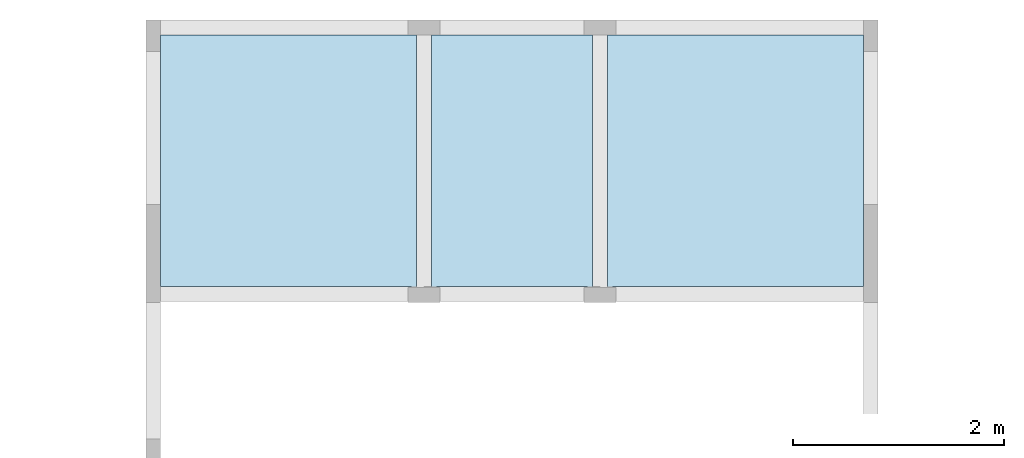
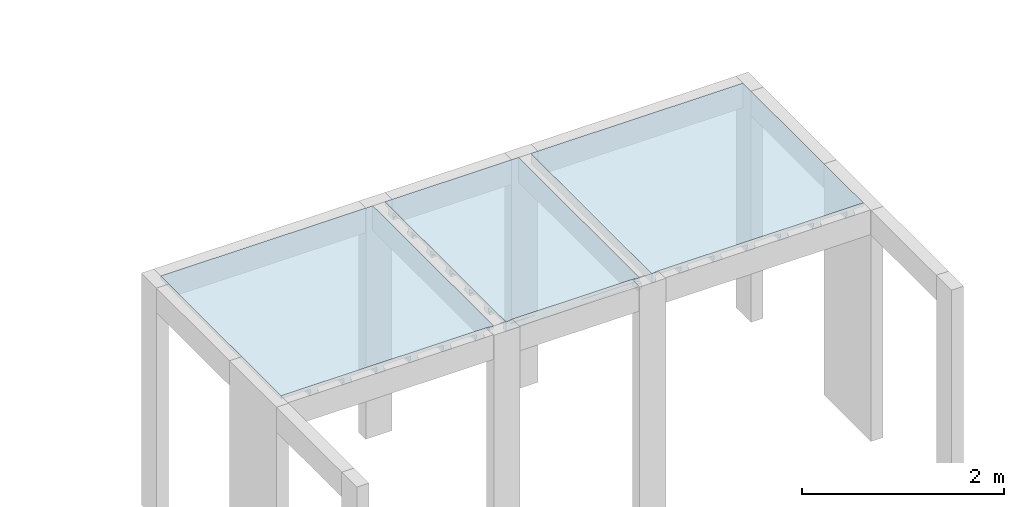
# One storey, part 2 of 2: 3 slabs.
"""IFC4 building model written with IfcOpenShell, lengths in centimetres."""

from ifc_helpers import new_model, si_unit, derived_unit, frame, origin_with_axes, place, context, project, spatial, polyline, outline, extrude, faceted_brep, material, element, save


model = new_model("IFC4")

# Units and contexts
model_context = context("Model", 3, precision=1e-05, world=origin_with_axes(), identifier="Body")
ifc_project = project(units=[si_unit("LENGTHUNIT", "METRE", prefix="CENTI"), si_unit("VOLUMEUNIT", "CUBIC_METRE"), si_unit("AREAUNIT", "SQUARE_METRE"), si_unit("POWERUNIT", "WATT"), si_unit("LUMINOUSFLUXUNIT", "LUMEN"), si_unit("ELECTRICCURRENTUNIT", "AMPERE"), si_unit("PRESSUREUNIT", "PASCAL", prefix="KILO"), si_unit("MASSUNIT", "GRAM", prefix="KILO"), si_unit("PLANEANGLEUNIT", "RADIAN"), derived_unit("VOLUMETRICFLOWRATEUNIT", [(si_unit("LENGTHUNIT", "METRE"), 3), (si_unit("TIMEUNIT", "SECOND"), -1)])], contexts=[model_context])

# Site, building, storey
site_placement = place(None, origin_with_axes())
site = spatial("IfcSite", under=ifc_project, at=site_placement)
building_placement = place(site_placement, frame((0.0, 0.0, -170.0)))
building = spatial("IfcBuilding", under=site, at=building_placement)
placement_1 = place(building_placement, origin_with_axes())
placement_2 = place(placement_1, frame((0.0, 0.0, 170.0), z_axis=(0.0, 0.0, 1.0), x_axis=(1.0, 0.0, 0.0)))
storey_placement = place(placement_2, frame((0.0, 0.0, 280.0), z_axis=(0.0, 0.0, 1.0), x_axis=(1.0, 0.0, 0.0)))
storey = spatial("IfcBuildingStorey", under=building, at=storey_placement, Name="Respalto", CompositionType="ELEMENT", Elevation=280.0)

# Slabs
ifc_material = material(Name="Concreto")
slab_1_placement = place(storey_placement, frame((2202.06, 258.0, 0.0), z_axis=(0.0, 0.0, 1.0), x_axis=(1.0, 0.0, 0.0)))
element("IfcSlab", 1, at=slab_1_placement, inside=storey, material=ifc_material, Name="L1", PredefinedType="FLOOR", context=model_context, shape_type="SolidModel", body=[
    extrude(outline(polyline([(121.5, 120.0), (-121.499, 120.0), (-121.5, -119.0), (116.499, -119.0), (116.499, -120.0), (121.499, -120.0), (121.5, 120.0), (121.5, 120.0)])), frame((0.0, 0.0, -4.0), z_axis=(0.0, 0.0, 1.0), x_axis=(1.0, 0.0, 0.0)), (0.0, 0.0, 1.0), 4.0),
    faceted_brep([(-87.5, -119.0, -12.0), (-87.5, 120.0, -12.0), (-79.5, 120.0, -12.0), (-79.5, -119.0, -12.0), (-79.5, -119.0, -4.0), (-79.5, 120.0, -4.0), (-87.5, 120.0, -4.0), (-87.5, -119.0, -4.0)], [[[0, 1, 2, 3]], [[4, 5, 6, 7]], [[4, 3, 5]], [[3, 2, 5]], [[5, 2, 6]], [[2, 1, 6]], [[6, 1, 7]], [[1, 0, 7]], [[7, 0, 4]], [[0, 3, 4]]]),
    faceted_brep([(-89.0, -119.0, -12.0), (-89.0, 120.0, -12.0), (-87.5, 120.0, -12.0), (-87.5, -119.0, -12.0), (-87.5, -119.0, -9.0), (-87.5, 120.0, -9.0), (-89.0, 120.0, -9.0), (-89.0, -119.0, -9.0)], [[[0, 1, 2, 3]], [[4, 5, 6, 7]], [[4, 3, 5]], [[3, 2, 5]], [[5, 2, 6]], [[2, 1, 6]], [[6, 1, 7]], [[1, 0, 7]], [[7, 0, 4]], [[0, 3, 4]]]),
    faceted_brep([(-79.5, -119.0, -12.0), (-79.5, 120.0, -12.0), (-78.0, 120.0, -12.0), (-78.0, -119.0, -12.0), (-78.0, -119.0, -9.0), (-78.0, 120.0, -9.0), (-79.5, 120.0, -9.0), (-79.5, -119.0, -9.0)], [[[0, 1, 2, 3]], [[4, 5, 6, 7]], [[4, 3, 5]], [[3, 2, 5]], [[5, 2, 6]], [[2, 1, 6]], [[6, 1, 7]], [[1, 0, 7]], [[7, 0, 4]], [[0, 3, 4]]]),
    faceted_brep([(-49.5, -119.0, -12.0), (-49.5, 120.0, -12.0), (-41.5, 120.0, -12.0), (-41.5, -119.0, -12.0), (-41.5, -119.0, -4.0), (-41.5, 120.0, -4.0), (-49.5, 120.0, -4.0), (-49.5, -119.0, -4.0)], [[[0, 1, 2, 3]], [[4, 5, 6, 7]], [[4, 3, 5]], [[3, 2, 5]], [[5, 2, 6]], [[2, 1, 6]], [[6, 1, 7]], [[1, 0, 7]], [[7, 0, 4]], [[0, 3, 4]]]),
    faceted_brep([(-51.0, -119.0, -12.0), (-51.0, 120.0, -12.0), (-49.5, 120.0, -12.0), (-49.5, -119.0, -12.0), (-49.5, -119.0, -9.0), (-49.5, 120.0, -9.0), (-51.0, 120.0, -9.0), (-51.0, -119.0, -9.0)], [[[0, 1, 2, 3]], [[4, 5, 6, 7]], [[4, 3, 5]], [[3, 2, 5]], [[5, 2, 6]], [[2, 1, 6]], [[6, 1, 7]], [[1, 0, 7]], [[7, 0, 4]], [[0, 3, 4]]]),
    faceted_brep([(-41.5, -119.0, -12.0), (-41.5, 120.0, -12.0), (-40.0, 120.0, -12.0), (-40.0, -119.0, -12.0), (-40.0, -119.0, -9.0), (-40.0, 120.0, -9.0), (-41.5, 120.0, -9.0), (-41.5, -119.0, -9.0)], [[[0, 1, 2, 3]], [[4, 5, 6, 7]], [[4, 3, 5]], [[3, 2, 5]], [[5, 2, 6]], [[2, 1, 6]], [[6, 1, 7]], [[1, 0, 7]], [[7, 0, 4]], [[0, 3, 4]]]),
    faceted_brep([(-11.5, -119.0, -12.0), (-11.5, 120.0, -12.0), (-3.5, 120.0, -12.0), (-3.5, -119.0, -12.0), (-3.5, -119.0, -4.0), (-3.5, 120.0, -4.0), (-11.5, 120.0, -4.0), (-11.5, -119.0, -4.0)], [[[0, 1, 2, 3]], [[4, 5, 6, 7]], [[4, 3, 5]], [[3, 2, 5]], [[5, 2, 6]], [[2, 1, 6]], [[6, 1, 7]], [[1, 0, 7]], [[7, 0, 4]], [[0, 3, 4]]]),
    faceted_brep([(-13.0, -119.0, -12.0), (-13.0, 120.0, -12.0), (-11.5, 120.0, -12.0), (-11.5, -119.0, -12.0), (-11.5, -119.0, -9.0), (-11.5, 120.0, -9.0), (-13.0, 120.0, -9.0), (-13.0, -119.0, -9.0)], [[[0, 1, 2, 3]], [[4, 5, 6, 7]], [[4, 3, 5]], [[3, 2, 5]], [[5, 2, 6]], [[2, 1, 6]], [[6, 1, 7]], [[1, 0, 7]], [[7, 0, 4]], [[0, 3, 4]]]),
    faceted_brep([(-3.5, -119.0, -12.0), (-3.5, 120.0, -12.0), (-2.0, 120.0, -12.0), (-2.0, -119.0, -12.0), (-2.0, -119.0, -9.0), (-2.0, 120.0, -9.0), (-3.5, 120.0, -9.0), (-3.5, -119.0, -9.0)], [[[0, 1, 2, 3]], [[4, 5, 6, 7]], [[4, 3, 5]], [[3, 2, 5]], [[5, 2, 6]], [[2, 1, 6]], [[6, 1, 7]], [[1, 0, 7]], [[7, 0, 4]], [[0, 3, 4]]]),
    faceted_brep([(26.5, -119.0, -12.0), (26.5, 120.0, -12.0), (34.5, 120.0, -12.0), (34.5, -119.0, -12.0), (34.5, -119.0, -4.0), (34.5, 120.0, -4.0), (26.5, 120.0, -4.0), (26.5, -119.0, -4.0)], [[[0, 1, 2, 3]], [[4, 5, 6, 7]], [[4, 3, 5]], [[3, 2, 5]], [[5, 2, 6]], [[2, 1, 6]], [[6, 1, 7]], [[1, 0, 7]], [[7, 0, 4]], [[0, 3, 4]]]),
    faceted_brep([(25.0, -119.0, -12.0), (25.0, 120.0, -12.0), (26.5, 120.0, -12.0), (26.5, -119.0, -12.0), (26.5, -119.0, -9.0), (26.5, 120.0, -9.0), (25.0, 120.0, -9.0), (25.0, -119.0, -9.0)], [[[0, 1, 2, 3]], [[4, 5, 6, 7]], [[4, 3, 5]], [[3, 2, 5]], [[5, 2, 6]], [[2, 1, 6]], [[6, 1, 7]], [[1, 0, 7]], [[7, 0, 4]], [[0, 3, 4]]]),
    faceted_brep([(34.5, -119.0, -12.0), (34.5, 120.0, -12.0), (36.0, 120.0, -12.0), (36.0, -119.0, -12.0), (36.0, -119.0, -9.0), (36.0, 120.0, -9.0), (34.5, 120.0, -9.0), (34.5, -119.0, -9.0)], [[[0, 1, 2, 3]], [[4, 5, 6, 7]], [[4, 3, 5]], [[3, 2, 5]], [[5, 2, 6]], [[2, 1, 6]], [[6, 1, 7]], [[1, 0, 7]], [[7, 0, 4]], [[0, 3, 4]]]),
    faceted_brep([(64.5, -119.0, -12.0), (64.5, 120.0, -12.0), (72.5, 120.0, -12.0), (72.5, -119.0, -12.0), (72.5, -119.0, -4.0), (72.5, 120.0, -4.0), (64.5, 120.0, -4.0), (64.5, -119.0, -4.0)], [[[0, 1, 2, 3]], [[4, 5, 6, 7]], [[4, 3, 5]], [[3, 2, 5]], [[5, 2, 6]], [[2, 1, 6]], [[6, 1, 7]], [[1, 0, 7]], [[7, 0, 4]], [[0, 3, 4]]]),
    faceted_brep([(63.0, -119.0, -12.0), (63.0, 120.0, -12.0), (64.5, 120.0, -12.0), (64.5, -119.0, -12.0), (64.5, -119.0, -9.0), (64.5, 120.0, -9.0), (63.0, 120.0, -9.0), (63.0, -119.0, -9.0)], [[[0, 1, 2, 3]], [[4, 5, 6, 7]], [[4, 3, 5]], [[3, 2, 5]], [[5, 2, 6]], [[2, 1, 6]], [[6, 1, 7]], [[1, 0, 7]], [[7, 0, 4]], [[0, 3, 4]]]),
    faceted_brep([(72.5, -119.0, -12.0), (72.5, 120.0, -12.0), (74.0, 120.0, -12.0), (74.0, -119.0, -12.0), (74.0, -119.0, -9.0), (74.0, 120.0, -9.0), (72.5, 120.0, -9.0), (72.5, -119.0, -9.0)], [[[0, 1, 2, 3]], [[4, 5, 6, 7]], [[4, 3, 5]], [[3, 2, 5]], [[5, 2, 6]], [[2, 1, 6]], [[6, 1, 7]], [[1, 0, 7]], [[7, 0, 4]], [[0, 3, 4]]]),
    faceted_brep([(102.5, -119.0, -12.0), (102.5, 120.0, -12.0), (110.5, 120.0, -12.0), (110.5, -119.0, -12.0), (110.5, -119.0, -4.0), (110.5, 120.0, -4.0), (102.5, 120.0, -4.0), (102.5, -119.0, -4.0)], [[[0, 1, 2, 3]], [[4, 5, 6, 7]], [[4, 3, 5]], [[3, 2, 5]], [[5, 2, 6]], [[2, 1, 6]], [[6, 1, 7]], [[1, 0, 7]], [[7, 0, 4]], [[0, 3, 4]]]),
    faceted_brep([(101.0, -119.0, -12.0), (101.0, 120.0, -12.0), (102.5, 120.0, -12.0), (102.5, -119.0, -12.0), (102.5, -119.0, -9.0), (102.5, 120.0, -9.0), (101.0, 120.0, -9.0), (101.0, -119.0, -9.0)], [[[0, 1, 2, 3]], [[4, 5, 6, 7]], [[4, 3, 5]], [[3, 2, 5]], [[5, 2, 6]], [[2, 1, 6]], [[6, 1, 7]], [[1, 0, 7]], [[7, 0, 4]], [[0, 3, 4]]]),
    faceted_brep([(110.5, -119.0, -12.0), (110.5, 120.0, -12.0), (112.0, 120.0, -12.0), (112.0, -119.0, -12.0), (112.0, -119.0, -9.0), (112.0, 120.0, -9.0), (110.5, 120.0, -9.0), (110.5, -119.0, -9.0)], [[[0, 1, 2, 3]], [[4, 5, 6, 7]], [[4, 3, 5]], [[3, 2, 5]], [[5, 2, 6]], [[2, 1, 6]], [[6, 1, 7]], [[1, 0, 7]], [[7, 0, 4]], [[0, 3, 4]]]),
])
slab_2_placement = place(storey_placement, frame((2414.06, 256.25, 0.0), z_axis=(0.0, 0.0, 1.0), x_axis=(1.0, 0.0, 0.0)))
element("IfcSlab", 2, at=slab_2_placement, inside=storey, material=ifc_material, Name="L2", PredefinedType="FLOOR", context=model_context, shape_type="SolidModel", body=[
    extrude(outline(polyline([(-71.5, -119.0), (71.499, -119.0), (71.499, -120.0), (76.499, -120.0), (76.5, 120.0), (-76.5, 120.0), (-76.5, -120.0), (-71.5, -120.0), (-71.5, -119.0), (-71.5, -119.0)])), frame((0.0, 1.75, -4.0), z_axis=(0.0, 0.0, 1.0), x_axis=(1.0, 0.0, 0.0)), (0.0, 0.0, 1.0), 4.0),
    faceted_brep([(-76.5, -113.75, -12.0), (76.4995, -113.75, -12.0), (-71.5, -118.25, -12.0), (-76.5, -118.25, -12.0), (-76.5, -118.25, -4.0), (-71.5, -118.25, -4.0), (76.4995, -113.75, -4.0), (-76.5, -113.75, -4.0)], [[[0, 1, 2, 3]], [[4, 5, 6, 7]], [[4, 3, 5]], [[3, 2, 5]], [[5, 2, 6]], [[2, 1, 6]], [[6, 1, 7]], [[1, 0, 7]], [[7, 0, 4]], [[0, 3, 4]]]),
    faceted_brep([(-76.5, -112.25, -12.0), (76.4995, -112.25, -12.0), (76.4995, -113.75, -12.0), (-76.5, -113.75, -12.0), (-76.5, -113.75, -9.0), (76.4995, -113.75, -9.0), (76.4995, -112.25, -9.0), (-76.5, -112.25, -9.0)], [[[0, 1, 2, 3]], [[4, 5, 6, 7]], [[4, 3, 5]], [[3, 2, 5]], [[5, 2, 6]], [[2, 1, 6]], [[6, 1, 7]], [[1, 0, 7]], [[7, 0, 4]], [[0, 3, 4]]]),
    faceted_brep([(71.499, -113.75, -12.0), (76.4995, -113.75, -12.0), (76.4995, -121.75, -12.0), (71.499, -121.75, -12.0), (71.499, -121.75, -4.0), (76.4995, -121.75, -4.0), (76.4995, -113.75, -4.0), (71.499, -113.75, -4.0)], [[[0, 1, 2, 3]], [[4, 5, 6, 7]], [[4, 3, 5]], [[3, 2, 5]], [[5, 2, 6]], [[2, 1, 6]], [[6, 1, 7]], [[1, 0, 7]], [[7, 0, 4]], [[0, 3, 4]]]),
    faceted_brep([(76.4995, -113.75, -12.0), (-76.5, -113.75, -12.0), (-76.5, -112.25, -12.0), (76.4995, -112.25, -12.0), (76.4995, -112.25, -9.0), (-76.5, -112.25, -9.0), (-76.5, -113.75, -9.0), (76.4995, -113.75, -9.0)], [[[0, 1, 2, 3]], [[4, 5, 6, 7]], [[4, 3, 5]], [[3, 2, 5]], [[5, 2, 6]], [[2, 1, 6]], [[6, 1, 7]], [[1, 0, 7]], [[7, 0, 4]], [[0, 3, 4]]]),
    faceted_brep([(-76.5, -75.75, -12.0), (76.4995, -75.75, -12.0), (76.4995, -83.75, -12.0), (-76.5, -83.75, -12.0), (-76.5, -83.75, -4.0), (76.4995, -83.75, -4.0), (76.4995, -75.75, -4.0), (-76.5, -75.75, -4.0)], [[[0, 1, 2, 3]], [[4, 5, 6, 7]], [[4, 3, 5]], [[3, 2, 5]], [[5, 2, 6]], [[2, 1, 6]], [[6, 1, 7]], [[1, 0, 7]], [[7, 0, 4]], [[0, 3, 4]]]),
    faceted_brep([(-76.5, -74.25, -12.0), (76.4995, -74.25, -12.0), (76.4995, -75.75, -12.0), (-76.5, -75.75, -12.0), (-76.5, -75.75, -9.0), (76.4995, -75.75, -9.0), (76.4995, -74.25, -9.0), (-76.5, -74.25, -9.0)], [[[0, 1, 2, 3]], [[4, 5, 6, 7]], [[4, 3, 5]], [[3, 2, 5]], [[5, 2, 6]], [[2, 1, 6]], [[6, 1, 7]], [[1, 0, 7]], [[7, 0, 4]], [[0, 3, 4]]]),
    faceted_brep([(-76.5, -83.75, -12.0), (76.4995, -83.75, -12.0), (76.4995, -85.25, -12.0), (-76.5, -85.25, -12.0), (-76.5, -85.25, -9.0), (76.4995, -85.25, -9.0), (76.4995, -83.75, -9.0), (-76.5, -83.75, -9.0)], [[[0, 1, 2, 3]], [[4, 5, 6, 7]], [[4, 3, 5]], [[3, 2, 5]], [[5, 2, 6]], [[2, 1, 6]], [[6, 1, 7]], [[1, 0, 7]], [[7, 0, 4]], [[0, 3, 4]]]),
    faceted_brep([(-76.5, -37.75, -12.0), (76.4995, -37.75, -12.0), (76.4995, -45.75, -12.0), (-76.5, -45.75, -12.0), (-76.5, -45.75, -4.0), (76.4995, -45.75, -4.0), (76.4995, -37.75, -4.0), (-76.5, -37.75, -4.0)], [[[0, 1, 2, 3]], [[4, 5, 6, 7]], [[4, 3, 5]], [[3, 2, 5]], [[5, 2, 6]], [[2, 1, 6]], [[6, 1, 7]], [[1, 0, 7]], [[7, 0, 4]], [[0, 3, 4]]]),
    faceted_brep([(-76.5, -36.25, -12.0), (76.4995, -36.25, -12.0), (76.4995, -37.75, -12.0), (-76.5, -37.75, -12.0), (-76.5, -37.75, -9.0), (76.4995, -37.75, -9.0), (76.4995, -36.25, -9.0), (-76.5, -36.25, -9.0)], [[[0, 1, 2, 3]], [[4, 5, 6, 7]], [[4, 3, 5]], [[3, 2, 5]], [[5, 2, 6]], [[2, 1, 6]], [[6, 1, 7]], [[1, 0, 7]], [[7, 0, 4]], [[0, 3, 4]]]),
    faceted_brep([(-76.5, -45.75, -12.0), (76.4995, -45.75, -12.0), (76.4995, -47.25, -12.0), (-76.5, -47.25, -12.0), (-76.5, -47.25, -9.0), (76.4995, -47.25, -9.0), (76.4995, -45.75, -9.0), (-76.5, -45.75, -9.0)], [[[0, 1, 2, 3]], [[4, 5, 6, 7]], [[4, 3, 5]], [[3, 2, 5]], [[5, 2, 6]], [[2, 1, 6]], [[6, 1, 7]], [[1, 0, 7]], [[7, 0, 4]], [[0, 3, 4]]]),
    faceted_brep([(-76.5, 0.25, -12.0), (76.4995, 0.25, -12.0), (76.4995, -7.75, -12.0), (-76.5, -7.75, -12.0), (-76.5, -7.75, -4.0), (76.4995, -7.75, -4.0), (76.4995, 0.25, -4.0), (-76.5, 0.25, -4.0)], [[[0, 1, 2, 3]], [[4, 5, 6, 7]], [[4, 3, 5]], [[3, 2, 5]], [[5, 2, 6]], [[2, 1, 6]], [[6, 1, 7]], [[1, 0, 7]], [[7, 0, 4]], [[0, 3, 4]]]),
    faceted_brep([(-76.5, 1.75, -12.0), (76.4995, 1.75, -12.0), (76.4995, 0.25, -12.0), (-76.5, 0.25, -12.0), (-76.5, 0.25, -9.0), (76.4995, 0.25, -9.0), (76.4995, 1.75, -9.0), (-76.5, 1.75, -9.0)], [[[0, 1, 2, 3]], [[4, 5, 6, 7]], [[4, 3, 5]], [[3, 2, 5]], [[5, 2, 6]], [[2, 1, 6]], [[6, 1, 7]], [[1, 0, 7]], [[7, 0, 4]], [[0, 3, 4]]]),
    faceted_brep([(-76.5, -7.75, -12.0), (76.4995, -7.75, -12.0), (76.4995, -9.25, -12.0), (-76.5, -9.25, -12.0), (-76.5, -9.25, -9.0), (76.4995, -9.25, -9.0), (76.4995, -7.75, -9.0), (-76.5, -7.75, -9.0)], [[[0, 1, 2, 3]], [[4, 5, 6, 7]], [[4, 3, 5]], [[3, 2, 5]], [[5, 2, 6]], [[2, 1, 6]], [[6, 1, 7]], [[1, 0, 7]], [[7, 0, 4]], [[0, 3, 4]]]),
    faceted_brep([(-76.5, 38.25, -12.0), (76.4995, 38.25, -12.0), (76.4995, 30.25, -12.0), (-76.5, 30.25, -12.0), (-76.5, 30.25, -4.0), (76.4995, 30.25, -4.0), (76.4995, 38.25, -4.0), (-76.5, 38.25, -4.0)], [[[0, 1, 2, 3]], [[4, 5, 6, 7]], [[4, 3, 5]], [[3, 2, 5]], [[5, 2, 6]], [[2, 1, 6]], [[6, 1, 7]], [[1, 0, 7]], [[7, 0, 4]], [[0, 3, 4]]]),
    faceted_brep([(-76.5, 39.75, -12.0), (76.4995, 39.75, -12.0), (76.4995, 38.25, -12.0), (-76.5, 38.25, -12.0), (-76.5, 38.25, -9.0), (76.4995, 38.25, -9.0), (76.4995, 39.75, -9.0), (-76.5, 39.75, -9.0)], [[[0, 1, 2, 3]], [[4, 5, 6, 7]], [[4, 3, 5]], [[3, 2, 5]], [[5, 2, 6]], [[2, 1, 6]], [[6, 1, 7]], [[1, 0, 7]], [[7, 0, 4]], [[0, 3, 4]]]),
    faceted_brep([(-76.5, 30.25, -12.0), (76.4995, 30.25, -12.0), (76.4995, 28.75, -12.0), (-76.5, 28.75, -12.0), (-76.5, 28.75, -9.0), (76.4995, 28.75, -9.0), (76.4995, 30.25, -9.0), (-76.5, 30.25, -9.0)], [[[0, 1, 2, 3]], [[4, 5, 6, 7]], [[4, 3, 5]], [[3, 2, 5]], [[5, 2, 6]], [[2, 1, 6]], [[6, 1, 7]], [[1, 0, 7]], [[7, 0, 4]], [[0, 3, 4]]]),
    faceted_brep([(-76.5, 76.25, -12.0), (76.4995, 76.25, -12.0), (76.4995, 68.25, -12.0), (-76.5, 68.25, -12.0), (-76.5, 68.25, -4.0), (76.4995, 68.25, -4.0), (76.4995, 76.25, -4.0), (-76.5, 76.25, -4.0)], [[[0, 1, 2, 3]], [[4, 5, 6, 7]], [[4, 3, 5]], [[3, 2, 5]], [[5, 2, 6]], [[2, 1, 6]], [[6, 1, 7]], [[1, 0, 7]], [[7, 0, 4]], [[0, 3, 4]]]),
    faceted_brep([(-76.5, 77.75, -12.0), (76.4995, 77.75, -12.0), (76.4995, 76.25, -12.0), (-76.5, 76.25, -12.0), (-76.5, 76.25, -9.0), (76.4995, 76.25, -9.0), (76.4995, 77.75, -9.0), (-76.5, 77.75, -9.0)], [[[0, 1, 2, 3]], [[4, 5, 6, 7]], [[4, 3, 5]], [[3, 2, 5]], [[5, 2, 6]], [[2, 1, 6]], [[6, 1, 7]], [[1, 0, 7]], [[7, 0, 4]], [[0, 3, 4]]]),
    faceted_brep([(-76.5, 68.25, -12.0), (76.4995, 68.25, -12.0), (76.4995, 66.75, -12.0), (-76.5, 66.75, -12.0), (-76.5, 66.75, -9.0), (76.4995, 66.75, -9.0), (76.4995, 68.25, -9.0), (-76.5, 68.25, -9.0)], [[[0, 1, 2, 3]], [[4, 5, 6, 7]], [[4, 3, 5]], [[3, 2, 5]], [[5, 2, 6]], [[2, 1, 6]], [[6, 1, 7]], [[1, 0, 7]], [[7, 0, 4]], [[0, 3, 4]]]),
    faceted_brep([(-76.5, 114.25, -12.0), (76.4995, 114.25, -12.0), (76.4995, 106.25, -12.0), (-76.5, 106.25, -12.0), (-76.5, 106.25, -4.0), (76.4995, 106.25, -4.0), (76.4995, 114.25, -4.0), (-76.5, 114.25, -4.0)], [[[0, 1, 2, 3]], [[4, 5, 6, 7]], [[4, 3, 5]], [[3, 2, 5]], [[5, 2, 6]], [[2, 1, 6]], [[6, 1, 7]], [[1, 0, 7]], [[7, 0, 4]], [[0, 3, 4]]]),
    faceted_brep([(-76.5, 115.75, -12.0), (76.4995, 115.75, -12.0), (76.4995, 114.25, -12.0), (-76.5, 114.25, -12.0), (-76.5, 114.25, -9.0), (76.4995, 114.25, -9.0), (76.4995, 115.75, -9.0), (-76.5, 115.75, -9.0)], [[[0, 1, 2, 3]], [[4, 5, 6, 7]], [[4, 3, 5]], [[3, 2, 5]], [[5, 2, 6]], [[2, 1, 6]], [[6, 1, 7]], [[1, 0, 7]], [[7, 0, 4]], [[0, 3, 4]]]),
    faceted_brep([(-76.5, 106.25, -12.0), (76.4995, 106.25, -12.0), (76.4995, 104.75, -12.0), (-76.5, 104.75, -12.0), (-76.5, 104.75, -9.0), (76.4995, 104.75, -9.0), (76.4995, 106.25, -9.0), (-76.5, 106.25, -9.0)], [[[0, 1, 2, 3]], [[4, 5, 6, 7]], [[4, 3, 5]], [[3, 2, 5]], [[5, 2, 6]], [[2, 1, 6]], [[6, 1, 7]], [[1, 0, 7]], [[7, 0, 4]], [[0, 3, 4]]]),
])
slab_3_placement = place(storey_placement, frame((2626.06, 258.0, 0.0), z_axis=(0.0, 0.0, 1.0), x_axis=(1.0, 0.0, 0.0)))
element("IfcSlab", 3, at=slab_3_placement, inside=storey, material=ifc_material, Name="L3", PredefinedType="FLOOR", context=model_context, shape_type="SolidModel", body=[
    extrude(outline(polyline([(-116.5, -119.0), (121.5, -119.0), (121.5, 120.0), (-121.5, 120.0), (-121.5, -120.0), (-116.5, -120.0), (-116.5, -119.0), (-116.5, -119.0)])), frame((0.0, 0.0, -4.0), z_axis=(0.0, 0.0, 1.0), x_axis=(1.0, 0.0, 0.0)), (0.0, 0.0, 1.0), 4.0),
    faceted_brep([(-121.5, -120.0, -12.0), (-121.5, 120.0, -12.0), (-117.5, 120.0, -12.0), (-117.5, -120.0, -12.0), (-117.5, -120.0, -4.0), (-117.5, 120.0, -4.0), (-121.5, 120.0, -4.0), (-121.5, -120.0, -4.0)], [[[0, 1, 2, 3]], [[4, 5, 6, 7]], [[4, 3, 5]], [[3, 2, 5]], [[5, 2, 6]], [[2, 1, 6]], [[6, 1, 7]], [[1, 0, 7]], [[7, 0, 4]], [[0, 3, 4]]]),
    faceted_brep([(-117.5, -120.0, -12.0), (-117.5, 120.0, -12.0), (-116.0, 120.0, -12.0), (-116.0, -119.0, -12.0), (-116.0, -119.0, -9.0), (-116.0, 120.0, -9.0), (-117.5, 120.0, -9.0), (-117.5, -120.0, -9.0)], [[[0, 1, 2, 3]], [[4, 5, 6, 7]], [[4, 3, 5]], [[3, 2, 5]], [[5, 2, 6]], [[2, 1, 6]], [[6, 1, 7]], [[1, 0, 7]], [[7, 0, 4]], [[0, 3, 4]]]),
    faceted_brep([(-87.5, -119.0, -12.0), (-87.5, 120.0, -12.0), (-79.5, 120.0, -12.0), (-79.5, -119.0, -12.0), (-79.5, -119.0, -4.0), (-79.5, 120.0, -4.0), (-87.5, 120.0, -4.0), (-87.5, -119.0, -4.0)], [[[0, 1, 2, 3]], [[4, 5, 6, 7]], [[4, 3, 5]], [[3, 2, 5]], [[5, 2, 6]], [[2, 1, 6]], [[6, 1, 7]], [[1, 0, 7]], [[7, 0, 4]], [[0, 3, 4]]]),
    faceted_brep([(-89.0, -119.0, -12.0), (-89.0, 120.0, -12.0), (-87.5, 120.0, -12.0), (-87.5, -119.0, -12.0), (-87.5, -119.0, -9.0), (-87.5, 120.0, -9.0), (-89.0, 120.0, -9.0), (-89.0, -119.0, -9.0)], [[[0, 1, 2, 3]], [[4, 5, 6, 7]], [[4, 3, 5]], [[3, 2, 5]], [[5, 2, 6]], [[2, 1, 6]], [[6, 1, 7]], [[1, 0, 7]], [[7, 0, 4]], [[0, 3, 4]]]),
    faceted_brep([(-79.5, -119.0, -12.0), (-79.5, 120.0, -12.0), (-78.0, 120.0, -12.0), (-78.0, -119.0, -12.0), (-78.0, -119.0, -9.0), (-78.0, 120.0, -9.0), (-79.5, 120.0, -9.0), (-79.5, -119.0, -9.0)], [[[0, 1, 2, 3]], [[4, 5, 6, 7]], [[4, 3, 5]], [[3, 2, 5]], [[5, 2, 6]], [[2, 1, 6]], [[6, 1, 7]], [[1, 0, 7]], [[7, 0, 4]], [[0, 3, 4]]]),
    faceted_brep([(-49.5, -119.0, -12.0), (-49.5, 120.0, -12.0), (-41.5, 120.0, -12.0), (-41.5, -119.0, -12.0), (-41.5, -119.0, -4.0), (-41.5, 120.0, -4.0), (-49.5, 120.0, -4.0), (-49.5, -119.0, -4.0)], [[[0, 1, 2, 3]], [[4, 5, 6, 7]], [[4, 3, 5]], [[3, 2, 5]], [[5, 2, 6]], [[2, 1, 6]], [[6, 1, 7]], [[1, 0, 7]], [[7, 0, 4]], [[0, 3, 4]]]),
    faceted_brep([(-51.0, -119.0, -12.0), (-51.0, 120.0, -12.0), (-49.5, 120.0, -12.0), (-49.5, -119.0, -12.0), (-49.5, -119.0, -9.0), (-49.5, 120.0, -9.0), (-51.0, 120.0, -9.0), (-51.0, -119.0, -9.0)], [[[0, 1, 2, 3]], [[4, 5, 6, 7]], [[4, 3, 5]], [[3, 2, 5]], [[5, 2, 6]], [[2, 1, 6]], [[6, 1, 7]], [[1, 0, 7]], [[7, 0, 4]], [[0, 3, 4]]]),
    faceted_brep([(-41.5, -119.0, -12.0), (-41.5, 120.0, -12.0), (-40.0, 120.0, -12.0), (-40.0, -119.0, -12.0), (-40.0, -119.0, -9.0), (-40.0, 120.0, -9.0), (-41.5, 120.0, -9.0), (-41.5, -119.0, -9.0)], [[[0, 1, 2, 3]], [[4, 5, 6, 7]], [[4, 3, 5]], [[3, 2, 5]], [[5, 2, 6]], [[2, 1, 6]], [[6, 1, 7]], [[1, 0, 7]], [[7, 0, 4]], [[0, 3, 4]]]),
    faceted_brep([(-11.5, -119.0, -12.0), (-11.5, 120.0, -12.0), (-3.5, 120.0, -12.0), (-3.5, -119.0, -12.0), (-3.5, -119.0, -4.0), (-3.5, 120.0, -4.0), (-11.5, 120.0, -4.0), (-11.5, -119.0, -4.0)], [[[0, 1, 2, 3]], [[4, 5, 6, 7]], [[4, 3, 5]], [[3, 2, 5]], [[5, 2, 6]], [[2, 1, 6]], [[6, 1, 7]], [[1, 0, 7]], [[7, 0, 4]], [[0, 3, 4]]]),
    faceted_brep([(-13.0, -119.0, -12.0), (-13.0, 120.0, -12.0), (-11.5, 120.0, -12.0), (-11.5, -119.0, -12.0), (-11.5, -119.0, -9.0), (-11.5, 120.0, -9.0), (-13.0, 120.0, -9.0), (-13.0, -119.0, -9.0)], [[[0, 1, 2, 3]], [[4, 5, 6, 7]], [[4, 3, 5]], [[3, 2, 5]], [[5, 2, 6]], [[2, 1, 6]], [[6, 1, 7]], [[1, 0, 7]], [[7, 0, 4]], [[0, 3, 4]]]),
    faceted_brep([(-3.5, -119.0, -12.0), (-3.5, 120.0, -12.0), (-2.0, 120.0, -12.0), (-2.0, -119.0, -12.0), (-2.0, -119.0, -9.0), (-2.0, 120.0, -9.0), (-3.5, 120.0, -9.0), (-3.5, -119.0, -9.0)], [[[0, 1, 2, 3]], [[4, 5, 6, 7]], [[4, 3, 5]], [[3, 2, 5]], [[5, 2, 6]], [[2, 1, 6]], [[6, 1, 7]], [[1, 0, 7]], [[7, 0, 4]], [[0, 3, 4]]]),
    faceted_brep([(26.5, -119.0, -12.0), (26.5, 120.0, -12.0), (34.5, 120.0, -12.0), (34.5, -119.0, -12.0), (34.5, -119.0, -4.0), (34.5, 120.0, -4.0), (26.5, 120.0, -4.0), (26.5, -119.0, -4.0)], [[[0, 1, 2, 3]], [[4, 5, 6, 7]], [[4, 3, 5]], [[3, 2, 5]], [[5, 2, 6]], [[2, 1, 6]], [[6, 1, 7]], [[1, 0, 7]], [[7, 0, 4]], [[0, 3, 4]]]),
    faceted_brep([(25.0, -119.0, -12.0), (25.0, 120.0, -12.0), (26.5, 120.0, -12.0), (26.5, -119.0, -12.0), (26.5, -119.0, -9.0), (26.5, 120.0, -9.0), (25.0, 120.0, -9.0), (25.0, -119.0, -9.0)], [[[0, 1, 2, 3]], [[4, 5, 6, 7]], [[4, 3, 5]], [[3, 2, 5]], [[5, 2, 6]], [[2, 1, 6]], [[6, 1, 7]], [[1, 0, 7]], [[7, 0, 4]], [[0, 3, 4]]]),
    faceted_brep([(34.5, -119.0, -12.0), (34.5, 120.0, -12.0), (36.0, 120.0, -12.0), (36.0, -119.0, -12.0), (36.0, -119.0, -9.0), (36.0, 120.0, -9.0), (34.5, 120.0, -9.0), (34.5, -119.0, -9.0)], [[[0, 1, 2, 3]], [[4, 5, 6, 7]], [[4, 3, 5]], [[3, 2, 5]], [[5, 2, 6]], [[2, 1, 6]], [[6, 1, 7]], [[1, 0, 7]], [[7, 0, 4]], [[0, 3, 4]]]),
    faceted_brep([(64.5, -119.0, -12.0), (64.5, 120.0, -12.0), (72.5, 120.0, -12.0), (72.5, -119.0, -12.0), (72.5, -119.0, -4.0), (72.5, 120.0, -4.0), (64.5, 120.0, -4.0), (64.5, -119.0, -4.0)], [[[0, 1, 2, 3]], [[4, 5, 6, 7]], [[4, 3, 5]], [[3, 2, 5]], [[5, 2, 6]], [[2, 1, 6]], [[6, 1, 7]], [[1, 0, 7]], [[7, 0, 4]], [[0, 3, 4]]]),
    faceted_brep([(63.0, -119.0, -12.0), (63.0, 120.0, -12.0), (64.5, 120.0, -12.0), (64.5, -119.0, -12.0), (64.5, -119.0, -9.0), (64.5, 120.0, -9.0), (63.0, 120.0, -9.0), (63.0, -119.0, -9.0)], [[[0, 1, 2, 3]], [[4, 5, 6, 7]], [[4, 3, 5]], [[3, 2, 5]], [[5, 2, 6]], [[2, 1, 6]], [[6, 1, 7]], [[1, 0, 7]], [[7, 0, 4]], [[0, 3, 4]]]),
    faceted_brep([(72.5, -119.0, -12.0), (72.5, 120.0, -12.0), (74.0, 120.0, -12.0), (74.0, -119.0, -12.0), (74.0, -119.0, -9.0), (74.0, 120.0, -9.0), (72.5, 120.0, -9.0), (72.5, -119.0, -9.0)], [[[0, 1, 2, 3]], [[4, 5, 6, 7]], [[4, 3, 5]], [[3, 2, 5]], [[5, 2, 6]], [[2, 1, 6]], [[6, 1, 7]], [[1, 0, 7]], [[7, 0, 4]], [[0, 3, 4]]]),
    faceted_brep([(102.5, -119.0, -12.0), (102.5, 120.0, -12.0), (110.5, 120.0, -12.0), (110.5, -119.0, -12.0), (110.5, -119.0, -4.0), (110.5, 120.0, -4.0), (102.5, 120.0, -4.0), (102.5, -119.0, -4.0)], [[[0, 1, 2, 3]], [[4, 5, 6, 7]], [[4, 3, 5]], [[3, 2, 5]], [[5, 2, 6]], [[2, 1, 6]], [[6, 1, 7]], [[1, 0, 7]], [[7, 0, 4]], [[0, 3, 4]]]),
    faceted_brep([(101.0, -119.0, -12.0), (101.0, 120.0, -12.0), (102.5, 120.0, -12.0), (102.5, -119.0, -12.0), (102.5, -119.0, -9.0), (102.5, 120.0, -9.0), (101.0, 120.0, -9.0), (101.0, -119.0, -9.0)], [[[0, 1, 2, 3]], [[4, 5, 6, 7]], [[4, 3, 5]], [[3, 2, 5]], [[5, 2, 6]], [[2, 1, 6]], [[6, 1, 7]], [[1, 0, 7]], [[7, 0, 4]], [[0, 3, 4]]]),
    faceted_brep([(110.5, -119.0, -12.0), (110.5, 120.0, -12.0), (112.0, 120.0, -12.0), (112.0, -119.0, -12.0), (112.0, -119.0, -9.0), (112.0, 120.0, -9.0), (110.5, 120.0, -9.0), (110.5, -119.0, -9.0)], [[[0, 1, 2, 3]], [[4, 5, 6, 7]], [[4, 3, 5]], [[3, 2, 5]], [[5, 2, 6]], [[2, 1, 6]], [[6, 1, 7]], [[1, 0, 7]], [[7, 0, 4]], [[0, 3, 4]]]),
])

save(model, "model.ifc")
